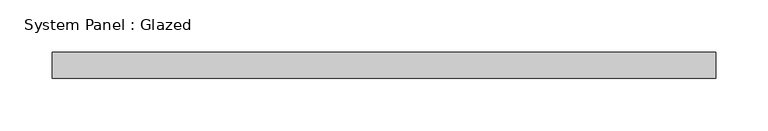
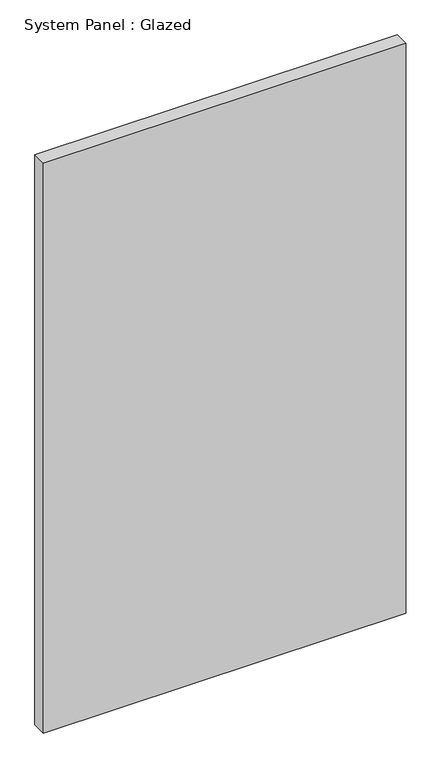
"""IFC4 building model written with IfcOpenShell, lengths in millimetres: plate geometry, System Panel : Glazed."""

import ifcopenshell
import ifcopenshell.guid

model = None  # the IFC model being written
_history = None  # IfcOwnerHistory: only IFC2X3 demands one
_inside = {}  # id of a spatial element -> (the spatial element, [elements in it])
_under = {}  # id of a project, library or spatial element -> (it, [spatial elements below it])
_declared = {}  # id of a project -> (the project, [libraries it declares])
_typed = {}  # id of a type object -> (the type object, [elements of that type])
_made_of = {}  # id of a material, layer set ... -> (it, [elements and type objects made of it])


def new_model(schema):
    """Start an empty IFC model of exactly this schema.

    Asked for "IFC4X3", IfcOpenShell would pick the latest addendum, in which some entities
    have other attributes; the version numbers below select the first issue.
    IFC2X3 requires an IfcOwnerHistory on every rooted entity: one is made here for all.
    """
    global model, _history
    if schema == "IFC4X3":
        model = ifcopenshell.file(schema_version=(4, 3, 0, 0))
    else:
        model = ifcopenshell.file(schema=schema)
    _inside.clear()
    _under.clear()
    _declared.clear()
    _typed.clear()
    _made_of.clear()
    _history = None
    if model.schema == "IFC2X3":
        org = make("IfcOrganization", Name="unknown")
        user = make(
            "IfcPersonAndOrganization",
            ThePerson=make("IfcPerson", FamilyName="unknown"),
            TheOrganization=org,
        )
        app = make(
            "IfcApplication",
            ApplicationDeveloper=org,
            Version="unknown",
            ApplicationFullName="unknown",
            ApplicationIdentifier="unknown",
        )
        _history = make(
            "IfcOwnerHistory",
            OwningUser=user,
            OwningApplication=app,
            ChangeAction="ADDED",
            CreationDate=0,
        )
    return model


def make(cls, **values):
    """One entity of the class cls with the attributes given. An attribute that is None is left unset."""
    return model.create_entity(
        cls, **{name: value for name, value in values.items() if value is not None}
    )


def rooted(cls, **values):
    """An entity with a GlobalId (a new one), such as an element, a storey or a relation."""
    return make(cls, GlobalId=ifcopenshell.guid.new(), OwnerHistory=_history, **values)


def si_unit(unit_type, name, prefix=None):
    """IfcSIUnit, for example si_unit("LENGTHUNIT", "METRE", prefix="MILLI")."""
    return make("IfcSIUnit", UnitType=unit_type, Prefix=prefix, Name=name)


def assignment(units):
    """IfcUnitAssignment: the units of a project."""
    return None if units is None else make("IfcUnitAssignment", Units=units)


def point(xyz):
    """IfcCartesianPoint."""
    return None if xyz is None else make("IfcCartesianPoint", Coordinates=xyz)


def direction(xyz):
    """IfcDirection."""
    return None if xyz is None else make("IfcDirection", DirectionRatios=xyz)


def frame(location, z_axis=None, x_axis=None):
    """IfcAxis2Placement3D, a coordinate frame: its origin and axes. An axis left out is left unset."""
    return make(
        "IfcAxis2Placement3D",
        Location=point(location),
        Axis=direction(z_axis),
        RefDirection=direction(x_axis),
    )


def origin():
    """The frame at (0, 0, 0) with its axes left unset."""
    return frame((0.0, 0.0, 0.0))


def origin_with_axes():
    """The frame at (0, 0, 0) with the z axis (0, 0, 1) and the x axis (1, 0, 0) written out."""
    return frame((0.0, 0.0, 0.0), z_axis=(0.0, 0.0, 1.0), x_axis=(1.0, 0.0, 0.0))


def place(relative_to, where):
    """IfcLocalPlacement: puts the frame where relative to a parent placement (None: the world)."""
    return make(
        "IfcLocalPlacement", PlacementRelTo=relative_to, RelativePlacement=where
    )


def context(
    kind, dimensions, precision=None, world=None, true_north=None, identifier=None
):
    """IfcGeometricRepresentationContext, for example the 3D "Model" context."""
    return make(
        "IfcGeometricRepresentationContext",
        ContextIdentifier=identifier,
        ContextType=kind,
        CoordinateSpaceDimension=dimensions,
        Precision=precision,
        WorldCoordinateSystem=world,
        TrueNorth=true_north,
    )


def project(units=None, contexts=None):
    """IfcProject with its units and contexts."""
    return rooted(
        "IfcProject",
        Name="project",
        RepresentationContexts=contexts,
        UnitsInContext=assignment(units),
    )


def spatial(cls, under=None, at=None, **own):
    """A site, building, storey or space (cls), placed at a placement, below another one or the project."""
    s = rooted(cls, ObjectPlacement=at, **own)
    if under is not None:
        _under.setdefault(under.id(), (under, []))[1].append(s)
    return s


def polyline(points):
    """IfcPolyline through the points."""
    return make("IfcPolyline", Points=[point(p) for p in points])


def outline(outer, holes=None, kind="AREA"):
    """IfcArbitraryClosedProfileDef: a profile drawn as a closed curve; with holes, ...WithVoids."""
    if holes is None:
        return make("IfcArbitraryClosedProfileDef", ProfileType=kind, OuterCurve=outer)
    return make(
        "IfcArbitraryProfileDefWithVoids",
        ProfileType=kind,
        OuterCurve=outer,
        InnerCurves=holes,
    )


def extrude(swept, where, along, depth):
    """IfcExtrudedAreaSolid: the profile swept, set in the frame where, extruded along a direction by depth."""
    return make(
        "IfcExtrudedAreaSolid",
        SweptArea=swept,
        Position=where,
        ExtrudedDirection=direction(along),
        Depth=depth,
    )


def shape(context_of_items, identifier, shape_type, items):
    """IfcShapeRepresentation: the items that make up one representation, for example the "Body"."""
    return make(
        "IfcShapeRepresentation",
        ContextOfItems=context_of_items,
        RepresentationIdentifier=identifier,
        RepresentationType=shape_type,
        Items=items,
    )


def source(mapping_origin, context_of_items, identifier, shape_type, items):
    """IfcRepresentationMap: a shape defined once, which mapped items show again and again."""
    return make(
        "IfcRepresentationMap",
        MappingOrigin=mapping_origin,
        MappedRepresentation=shape(context_of_items, identifier, shape_type, items),
    )


def transform(
    local_origin,
    x_axis=None,
    y_axis=None,
    z_axis=None,
    scale=None,
    scale2=None,
    scale3=None,
    uniform=True,
):
    """IfcCartesianTransformationOperator3D, or its non-uniform kind. x_axis, y_axis, z_axis: its Axis1, 2, 3."""
    if uniform:
        return make(
            "IfcCartesianTransformationOperator3D",
            Axis1=direction(x_axis),
            Axis2=direction(y_axis),
            LocalOrigin=point(local_origin),
            Scale=scale,
            Axis3=direction(z_axis),
        )
    return make(
        "IfcCartesianTransformationOperator3DnonUniform",
        Axis1=direction(x_axis),
        Axis2=direction(y_axis),
        LocalOrigin=point(local_origin),
        Scale=scale,
        Axis3=direction(z_axis),
        Scale2=scale2,
        Scale3=scale3,
    )


def mapped(mapping_source, mapping_target):
    """IfcMappedItem: shows the shape of a source again, moved by a transform."""
    return make(
        "IfcMappedItem", MappingSource=mapping_source, MappingTarget=mapping_target
    )


def made_of(thing, what):
    """Note that an element or type object is made of a material, layer set ...; save() writes the relation."""
    if what is not None:
        _made_of.setdefault(what.id(), (what, []))[1].append(thing)
    return thing


def element(
    cls,
    number,
    at=None,
    inside=None,
    cuts=None,
    type_object=None,
    material=None,
    context=None,
    identifier="Body",
    shape_type=None,
    held_by="IfcProductDefinitionShape",
    body=None,
    shapes=None,
    **own,
):
    """One element of the class cls, such as IfcWall. Its Tag is "e" and its number.

    at: its placement. inside: the storey or other place that contains it. cuts: it is an
    opening in that element (IfcRelVoidsElement). A single representation is given by context,
    identifier, shape_type and body (its items); several are given by shapes. held_by: the class
    of the entity that holds the representations. save() writes the other relations.
    """
    e = rooted(cls, Tag="e%d" % number, ObjectPlacement=at, **own)
    if body is not None:
        shapes = [shape(context, identifier, shape_type, body)]
    if shapes is not None:
        e.Representation = make(held_by, Representations=shapes)
    if inside is not None:
        _inside.setdefault(inside.id(), (inside, []))[1].append(e)
    if cuts is not None:
        rooted(
            "IfcRelVoidsElement", RelatingBuildingElement=cuts, RelatedOpeningElement=e
        )
    if type_object is not None:
        _typed.setdefault(type_object.id(), (type_object, []))[1].append(e)
    return made_of(e, material)


def aggregate(whole, parts):
    """IfcRelAggregates: a whole, such as a stair, and the parts it consists of."""
    return rooted("IfcRelAggregates", RelatingObject=whole, RelatedObjects=parts)


def save(model, path):
    """Write the relations noted so far, then the file.

    IfcRelAggregates (storeys below a building ...), IfcRelContainedInSpatialStructure (elements
    in a storey), IfcRelDefinesByType, IfcRelAssociatesMaterial and IfcRelDeclares: one each for
    every whole, place, type object, material and project.
    """
    for whole, parts in _under.values():
        aggregate(whole, parts)
    for where, things in _inside.values():
        rooted(
            "IfcRelContainedInSpatialStructure",
            RelatedElements=things,
            RelatingStructure=where,
        )
    for kind, things in _typed.values():
        rooted("IfcRelDefinesByType", RelatedObjects=things, RelatingType=kind)
    for what, things in _made_of.values():
        rooted("IfcRelAssociatesMaterial", RelatedObjects=things, RelatingMaterial=what)
    for by, libraries in _declared.values():
        rooted("IfcRelDeclares", RelatingContext=by, RelatedDefinitions=libraries)
    model.write(path)


def system_panel_glazed_944de8d7(model_context):
    return source(origin(), model_context, "Body", "SweptSolid", [
        extrude(outline(polyline([(319.0875, 19.05), (-319.0875, 19.05), (-319.0875, 44.45), (319.0875, 44.45), (319.0875, 19.05)])), origin_with_axes(), (0.0, 0.0, 1.0), 1060.45),
    ])


if __name__ == "__main__":
    model = new_model("IFC4")
    model_context = context("Model", 3, world=origin())
    ifc_project = project(units=[si_unit("LENGTHUNIT", "METRE", prefix="MILLI")], contexts=[model_context])
    site = spatial("IfcSite", under=ifc_project)
    building = spatial("IfcBuilding", under=site)
    placement = place(None, origin())
    system_panel_glazed_shape = system_panel_glazed_944de8d7(model_context)
    element("IfcPlate", 1, ObjectType="System Panel : Glazed", at=placement, inside=building, context=model_context, shape_type="MappedRepresentation", body=[
        mapped(system_panel_glazed_shape, transform((0.0, 0.0, 0.0), x_axis=(1.0, 0.0, 0.0), y_axis=(0.0, 1.0, 0.0), z_axis=(0.0, 0.0, 1.0))),
    ])
    save(model, "model.ifc")
